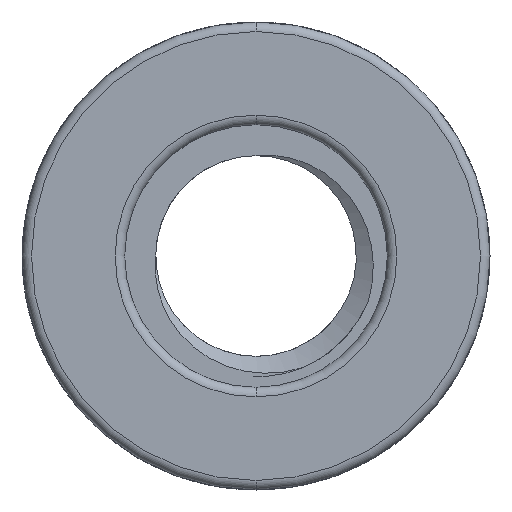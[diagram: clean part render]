
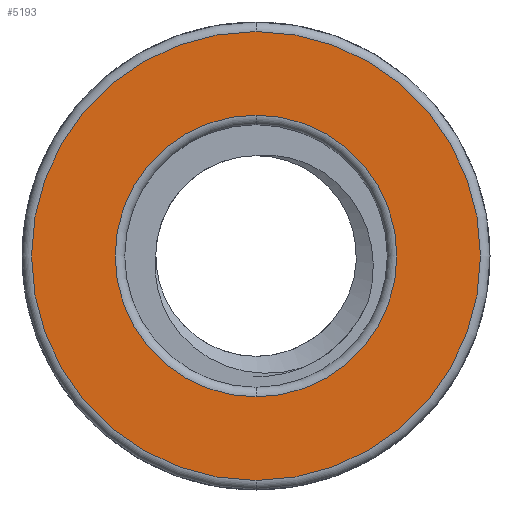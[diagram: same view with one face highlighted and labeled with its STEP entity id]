
A CAD part, front view. The second image highlights one B-rep face of the part: STEP entity #5193.
In plain terms, the highlighted planar face has unit normal (0, -1, 0).
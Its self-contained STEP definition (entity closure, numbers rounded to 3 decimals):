
#242 = VERTEX_POINT ( 'NONE', #33945 ) ;
#434 = VERTEX_POINT ( 'NONE', #32459 ) ;
#516 = CIRCLE ( 'NONE', #3824, 2.95 ) ;
#821 = CARTESIAN_POINT ( 'NONE',  ( 0., 0., 0. ) ) ;
#1572 = CARTESIAN_POINT ( 'NONE',  ( 0., 0., 0. ) ) ;
#3144 = VERTEX_POINT ( 'NONE', #37980 ) ;
#3824 = AXIS2_PLACEMENT_3D ( 'NONE', #17479, #17082, #29677 ) ;
#5193 = ADVANCED_FACE ( 'NONE', ( #39019, #26464 ), #38048, .T. ) ;
#5630 = CIRCLE ( 'NONE', #31962, 4.7 ) ;
#5685 = ORIENTED_EDGE ( 'NONE', *, *, #7578, .T. ) ;
#6517 = DIRECTION ( 'NONE',  ( 0., -1., 0. ) ) ;
#7578 = EDGE_CURVE ( 'NONE', #3144, #242, #5630, .T. ) ;
#9678 = EDGE_CURVE ( 'NONE', #23952, #434, #516, .T. ) ;
#16773 = ORIENTED_EDGE ( 'NONE', *, *, #32429, .T. ) ;
#17082 = DIRECTION ( 'NONE',  ( 0., 1., 0. ) ) ;
#17089 = AXIS2_PLACEMENT_3D ( 'NONE', #34772, #6517, #19283 ) ;
#17479 = CARTESIAN_POINT ( 'NONE',  ( 0., 0., 0. ) ) ;
#18939 = ORIENTED_EDGE ( 'NONE', *, *, #9678, .T. ) ;
#19154 = DIRECTION ( 'NONE',  ( 0., -1., 0. ) ) ;
#19283 = DIRECTION ( 'NONE',  ( 0., 0., -1. ) ) ;
#19432 = ORIENTED_EDGE ( 'NONE', *, *, #27067, .T. ) ;
#21483 = CIRCLE ( 'NONE', #25485, 2.95 ) ;
#21780 = EDGE_LOOP ( 'NONE', ( #19432, #18939 ) ) ;
#22078 = DIRECTION ( 'NONE',  ( 0., 1., 0. ) ) ;
#23952 = VERTEX_POINT ( 'NONE', #29493 ) ;
#25485 = AXIS2_PLACEMENT_3D ( 'NONE', #821, #22078, #28887 ) ;
#25574 = CARTESIAN_POINT ( 'NONE',  ( 0., 0., 0. ) ) ;
#26332 = DIRECTION ( 'NONE',  ( 0., -1., 0. ) ) ;
#26464 = FACE_OUTER_BOUND ( 'NONE', #36539, .T. ) ;
#26741 = DIRECTION ( 'NONE',  ( 0., 0., -1. ) ) ;
#27067 = EDGE_CURVE ( 'NONE', #434, #23952, #21483, .T. ) ;
#28244 = DIRECTION ( 'NONE',  ( 0., 0., -1. ) ) ;
#28887 = DIRECTION ( 'NONE',  ( 0., 0., -1. ) ) ;
#29493 = CARTESIAN_POINT ( 'NONE',  ( 0., 0., 2.95 ) ) ;
#29677 = DIRECTION ( 'NONE',  ( 0., 0., -1. ) ) ;
#31962 = AXIS2_PLACEMENT_3D ( 'NONE', #1572, #26332, #26741 ) ;
#32429 = EDGE_CURVE ( 'NONE', #242, #3144, #34176, .T. ) ;
#32459 = CARTESIAN_POINT ( 'NONE',  ( 0., 0., -2.95 ) ) ;
#33945 = CARTESIAN_POINT ( 'NONE',  ( 0., 0., 4.7 ) ) ;
#34176 = CIRCLE ( 'NONE', #37463, 4.7 ) ;
#34772 = CARTESIAN_POINT ( 'NONE',  ( 0., 0., -4.9 ) ) ;
#36539 = EDGE_LOOP ( 'NONE', ( #5685, #16773 ) ) ;
#37463 = AXIS2_PLACEMENT_3D ( 'NONE', #25574, #19154, #28244 ) ;
#37980 = CARTESIAN_POINT ( 'NONE',  ( 0., 0., -4.7 ) ) ;
#38048 = PLANE ( 'NONE',  #17089 ) ;
#39019 = FACE_BOUND ( 'NONE', #21780, .T. ) ;
